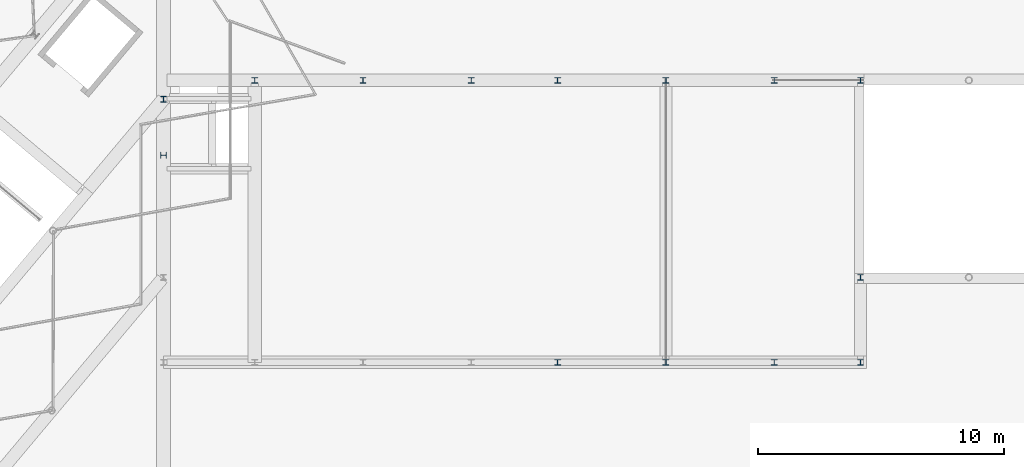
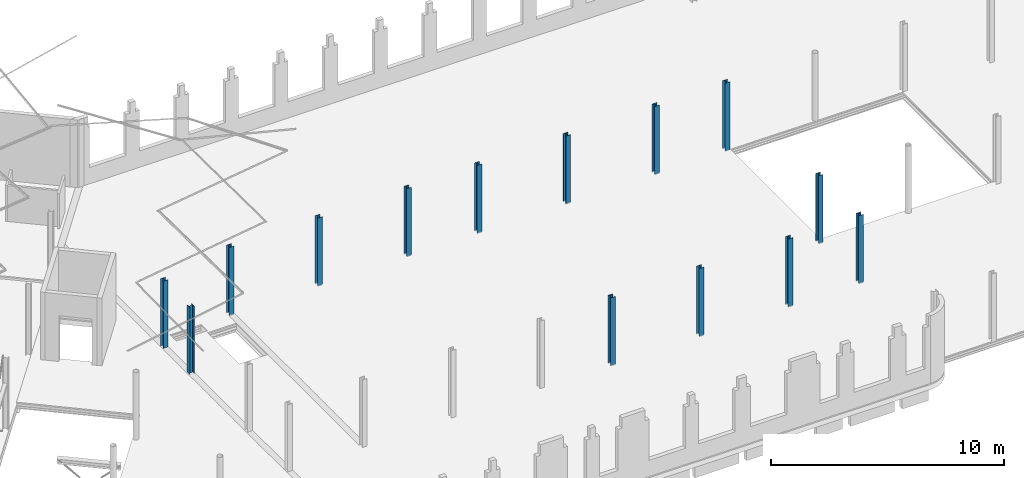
# One storey, part 5 of 25: 14 columns.
"""IFC2X3 building model written with IfcOpenShell, lengths in millimetres."""

from ifc_helpers import new_model, entity, si_unit, converted_unit, derived_unit, direction, frame, frame_2d, origin, origin_2d_with_axis, place, context, subcontext, project, spatial, i_section, extrude, source, transform, mapped, material, type_object, type_shapes, element, save


model = new_model("IFC2X3")

# Units and contexts
model_context = context("Model", 3, precision=0.01, world=origin(), true_north=direction((6.123031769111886e-17, 1.0)))
body_context = subcontext(model_context, "Body", "Model", "MODEL_VIEW")
ifc_project = project(units=[si_unit("LENGTHUNIT", "METRE", prefix="MILLI"), si_unit("AREAUNIT", "SQUARE_METRE"), si_unit("VOLUMEUNIT", "CUBIC_METRE"), derived_unit("MASSDENSITYUNIT", [(si_unit("MASSUNIT", "GRAM", prefix="KILO"), 1), (si_unit("LENGTHUNIT", "METRE"), -3)]), si_unit("MASSUNIT", "GRAM", prefix="KILO"), converted_unit("PLANEANGLEUNIT", "DEGREE", entity("IfcPlaneAngleMeasure", 0.017453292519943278), si_unit("PLANEANGLEUNIT", "RADIAN"), dimensions=[0, 0, 0, 0, 0, 0, 0])], contexts=[model_context])

# Site, building, storey
site_placement = place(None, origin())
site = spatial("IfcSite", under=ifc_project, at=site_placement, Name="Default", CompositionType="ELEMENT")
building_placement = place(site_placement, origin())
building = spatial("IfcBuilding", under=site, at=building_placement, Name="AT constructie", CompositionType="ELEMENT")
storey_placement = place(building_placement, frame((0.0, 0.0, 3864.0)))
storey = spatial("IfcBuildingStorey", under=building, at=storey_placement, Name="01 eerste verdieping", CompositionType="ELEMENT", Elevation=3864.0)

# Columns
ifc_material = material(Name="h2_staal_S355")
column_type_1 = type_object("IfcColumnType", Name="kolom_gen_HEA240", PredefinedType="COLUMN", material=ifc_material)
shared_shape_1 = source(origin(), body_context, "Body", "SweptSolid", [
    extrude(i_section(OverallWidth=239.9999999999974, OverallDepth=229.9999999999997, WebThickness=7.500000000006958, FlangeThickness=12.000000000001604, FilletRadius=21.0, at=frame_2d((8.661515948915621e-12, -4.334310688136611e-12), x_axis=(1.0, 0.0))), frame((69446.87463111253, 31271.04350852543, 3764.0)), (0.0, 0.0, 1.0), 3578.999999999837),
])
type_shapes(column_type_1, [shared_shape_1])
column_1_placement = place(storey_placement, frame((0.0, 0.0, -3864.0)))
element("IfcColumn", 1, at=column_1_placement, inside=storey, type_object=column_type_1, material=ifc_material, Name="NLRS_28_SC_TLB_kolom HEA_gen_AT:kolom_gen_HEA240", ObjectType="NLRS_28_SC_TLB_kolom HEA_gen_AT:kolom_gen_HEA240", context=body_context, shape_type="MappedRepresentation", body=[
    mapped(shared_shape_1, transform((0.0, 0.0, 0.0), scale=1.0)),
])
column_type_2 = type_object("IfcColumnType", Name="kolom_gen_HEA240", PredefinedType="COLUMN", material=ifc_material)
shared_shape_2 = source(origin(), body_context, "Body", "SweptSolid", [
    extrude(i_section(OverallWidth=239.9999999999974, OverallDepth=229.9999999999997, WebThickness=7.500000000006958, FlangeThickness=12.000000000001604, FilletRadius=21.0, at=frame_2d((0.0, 4.334310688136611e-12), x_axis=(1.0, 0.0))), frame((65946.87463111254, 31271.043508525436, 3764.0)), (0.0, 0.0, 1.0), 3578.999999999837),
])
type_shapes(column_type_2, [shared_shape_2])
column_2_placement = place(storey_placement, frame((0.0, 0.0, -3864.0)))
element("IfcColumn", 2, at=column_2_placement, inside=storey, type_object=column_type_2, material=ifc_material, Name="NLRS_28_SC_TLB_kolom HEA_gen_AT:kolom_gen_HEA240", ObjectType="NLRS_28_SC_TLB_kolom HEA_gen_AT:kolom_gen_HEA240", context=body_context, shape_type="MappedRepresentation", body=[
    mapped(shared_shape_2, transform((0.0, 0.0, 0.0), scale=1.0)),
])
column_type_3 = type_object("IfcColumnType", Name="kolom_gen_HEA240", PredefinedType="COLUMN", material=ifc_material)
shared_shape_3 = source(origin(), body_context, "Body", "SweptSolid", [
    extrude(i_section(OverallWidth=239.9999999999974, OverallDepth=229.9999999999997, WebThickness=7.500000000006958, FlangeThickness=12.000000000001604, FilletRadius=21.0, at=frame_2d((-1.7323031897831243e-11, 0.0), x_axis=(1.0, 0.0))), frame((61546.87463111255, 31271.04350852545, 3764.0)), (0.0, 0.0, 1.0), 3578.999999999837),
])
type_shapes(column_type_3, [shared_shape_3])
column_3_placement = place(storey_placement, frame((0.0, 0.0, -3864.0)))
element("IfcColumn", 3, at=column_3_placement, inside=storey, type_object=column_type_3, material=ifc_material, Name="NLRS_28_SC_TLB_kolom HEA_gen_AT:kolom_gen_HEA240", ObjectType="NLRS_28_SC_TLB_kolom HEA_gen_AT:kolom_gen_HEA240", context=body_context, shape_type="MappedRepresentation", body=[
    mapped(shared_shape_3, transform((0.0, 0.0, 0.0), scale=1.0)),
])
column_type_4 = type_object("IfcColumnType", Name="kolom_gen_HEA240", PredefinedType="COLUMN", material=ifc_material)
shared_shape_4 = source(origin(), body_context, "Body", "SweptSolid", [
    extrude(i_section(OverallWidth=239.9999999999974, OverallDepth=229.9999999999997, WebThickness=7.500000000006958, FlangeThickness=12.000000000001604, FilletRadius=21.0, at=frame_2d((8.661515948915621e-12, 4.334310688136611e-12), x_axis=(1.0, 0.0))), frame((57146.874631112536, 31271.04350852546, 3764.0)), (0.0, 0.0, 1.0), 3578.999999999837),
])
type_shapes(column_type_4, [shared_shape_4])
column_4_placement = place(storey_placement, frame((0.0, 0.0, -3864.0)))
element("IfcColumn", 4, at=column_4_placement, inside=storey, type_object=column_type_4, material=ifc_material, Name="NLRS_28_SC_TLB_kolom HEA_gen_AT:kolom_gen_HEA240", ObjectType="NLRS_28_SC_TLB_kolom HEA_gen_AT:kolom_gen_HEA240", context=body_context, shape_type="MappedRepresentation", body=[
    mapped(shared_shape_4, transform((0.0, 0.0, 0.0), scale=1.0)),
])
column_type_5 = type_object("IfcColumnType", Name="kolom_gen_HEA240", PredefinedType="COLUMN", material=ifc_material)
shared_shape_5 = source(origin(), body_context, "Body", "SweptSolid", [
    extrude(i_section(OverallWidth=239.9999999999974, OverallDepth=229.9999999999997, WebThickness=7.500000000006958, FlangeThickness=12.000000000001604, FilletRadius=21.0, at=frame_2d((8.661515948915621e-12, -4.334310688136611e-12), x_axis=(1.0, 0.0))), frame((53646.87463111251, 31271.043508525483, 3764.0)), (0.0, 0.0, 1.0), 3578.999999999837),
])
type_shapes(column_type_5, [shared_shape_5])
column_5_placement = place(storey_placement, frame((0.0, 0.0, -3864.0)))
element("IfcColumn", 5, at=column_5_placement, inside=storey, type_object=column_type_5, material=ifc_material, Name="NLRS_28_SC_TLB_kolom HEA_gen_AT:kolom_gen_HEA240", ObjectType="NLRS_28_SC_TLB_kolom HEA_gen_AT:kolom_gen_HEA240", context=body_context, shape_type="MappedRepresentation", body=[
    mapped(shared_shape_5, transform((0.0, 0.0, 0.0), scale=1.0)),
])
column_type_6 = type_object("IfcColumnType", Name="kolom_gen_HEA240", PredefinedType="COLUMN", material=ifc_material)
shared_shape_6 = source(origin(), body_context, "Body", "SweptSolid", [
    extrude(i_section(OverallWidth=239.9999999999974, OverallDepth=229.9999999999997, WebThickness=7.500000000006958, FlangeThickness=12.000000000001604, FilletRadius=21.0, at=frame_2d((0.0, -4.334310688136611e-12), x_axis=(1.0, 0.0))), frame((49246.87463111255, 31271.043508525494, 3764.0)), (0.0, 0.0, 1.0), 3578.999999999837),
])
type_shapes(column_type_6, [shared_shape_6])
column_6_placement = place(storey_placement, frame((0.0, 0.0, -3864.0)))
element("IfcColumn", 6, at=column_6_placement, inside=storey, type_object=column_type_6, material=ifc_material, Name="NLRS_28_SC_TLB_kolom HEA_gen_AT:kolom_gen_HEA240", ObjectType="NLRS_28_SC_TLB_kolom HEA_gen_AT:kolom_gen_HEA240", context=body_context, shape_type="MappedRepresentation", body=[
    mapped(shared_shape_6, transform((0.0, 0.0, 0.0), scale=1.0)),
])
column_type_7 = type_object("IfcColumnType", Name="kolom_gen_HEA240", PredefinedType="COLUMN", material=ifc_material)
shared_shape_7 = source(origin(), body_context, "Body", "SweptSolid", [
    extrude(i_section(OverallWidth=239.9999999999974, OverallDepth=229.9999999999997, WebThickness=7.500000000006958, FlangeThickness=12.000000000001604, FilletRadius=21.0, at=frame_2d((-8.661515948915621e-12, 0.0), x_axis=(1.0, 0.0))), frame((44846.87463111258, 31271.043508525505, 3764.0)), (0.0, 0.0, 1.0), 3578.999999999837),
])
type_shapes(column_type_7, [shared_shape_7])
column_7_placement = place(storey_placement, frame((0.0, 0.0, -3864.0)))
element("IfcColumn", 7, at=column_7_placement, inside=storey, type_object=column_type_7, material=ifc_material, Name="NLRS_28_SC_TLB_kolom HEA_gen_AT:kolom_gen_HEA240", ObjectType="NLRS_28_SC_TLB_kolom HEA_gen_AT:kolom_gen_HEA240", context=body_context, shape_type="MappedRepresentation", body=[
    mapped(shared_shape_7, transform((0.0, 0.0, 0.0), scale=1.0)),
])
column_type_8 = type_object("IfcColumnType", Name="kolom_gen_HEA240", PredefinedType="COLUMN", material=ifc_material)
shared_shape_8 = source(origin(), body_context, "Body", "SweptSolid", [
    extrude(i_section(OverallWidth=239.9999999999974, OverallDepth=229.9999999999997, WebThickness=7.500000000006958, FlangeThickness=12.000000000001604, FilletRadius=21.0, at=origin_2d_with_axis()), frame((69446.87463111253, 23271.043508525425, 3764.0)), (0.0, 0.0, 1.0), 3578.999999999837),
])
type_shapes(column_type_8, [shared_shape_8])
column_8_placement = place(storey_placement, frame((0.0, 0.0, -3864.0)))
element("IfcColumn", 8, at=column_8_placement, inside=storey, type_object=column_type_8, material=ifc_material, Name="NLRS_28_SC_TLB_kolom HEA_gen_AT:kolom_gen_HEA240", ObjectType="NLRS_28_SC_TLB_kolom HEA_gen_AT:kolom_gen_HEA240", context=body_context, shape_type="MappedRepresentation", body=[
    mapped(shared_shape_8, transform((0.0, 0.0, 0.0), scale=1.0)),
])
column_type_9 = type_object("IfcColumnType", Name="kolom_gen_HEA240", PredefinedType="COLUMN", material=ifc_material)
shared_shape_9 = source(origin(), body_context, "Body", "SweptSolid", [
    extrude(i_section(OverallWidth=239.9999999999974, OverallDepth=229.9999999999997, WebThickness=7.500000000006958, FlangeThickness=12.000000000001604, FilletRadius=21.0, at=frame_2d((-8.661515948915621e-12, 0.0), x_axis=(1.0, 0.0))), frame((65946.87463111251, 19821.04350852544, 3764.0)), (0.0, 0.0, 1.0), 3578.999999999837),
])
type_shapes(column_type_9, [shared_shape_9])
column_9_placement = place(storey_placement, frame((0.0, 0.0, -3864.0)))
element("IfcColumn", 9, at=column_9_placement, inside=storey, type_object=column_type_9, material=ifc_material, Name="NLRS_28_SC_TLB_kolom HEA_gen_AT:kolom_gen_HEA240", ObjectType="NLRS_28_SC_TLB_kolom HEA_gen_AT:kolom_gen_HEA240", context=body_context, shape_type="MappedRepresentation", body=[
    mapped(shared_shape_9, transform((0.0, 0.0, 0.0), scale=1.0)),
])
column_type_10 = type_object("IfcColumnType", Name="kolom_gen_HEA240", PredefinedType="COLUMN", material=ifc_material)
shared_shape_10 = source(origin(), body_context, "Body", "SweptSolid", [
    extrude(i_section(OverallWidth=239.9999999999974, OverallDepth=229.9999999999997, WebThickness=7.500000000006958, FlangeThickness=12.000000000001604, FilletRadius=21.0, at=frame_2d((0.0, -4.334310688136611e-12), x_axis=(1.0, 0.0))), frame((61546.87463111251, 19821.043508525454, 3764.0)), (0.0, 0.0, 1.0), 3578.999999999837),
])
type_shapes(column_type_10, [shared_shape_10])
column_10_placement = place(storey_placement, frame((0.0, 0.0, -3864.0)))
element("IfcColumn", 10, at=column_10_placement, inside=storey, type_object=column_type_10, material=ifc_material, Name="NLRS_28_SC_TLB_kolom HEA_gen_AT:kolom_gen_HEA240", ObjectType="NLRS_28_SC_TLB_kolom HEA_gen_AT:kolom_gen_HEA240", context=body_context, shape_type="MappedRepresentation", body=[
    mapped(shared_shape_10, transform((0.0, 0.0, 0.0), scale=1.0)),
])
column_type_11 = type_object("IfcColumnType", Name="kolom_gen_HEA240", PredefinedType="COLUMN", material=ifc_material)
shared_shape_11 = source(origin(), body_context, "Body", "SweptSolid", [
    extrude(i_section(OverallWidth=239.9999999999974, OverallDepth=229.9999999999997, WebThickness=7.500000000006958, FlangeThickness=12.000000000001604, FilletRadius=21.0, at=frame_2d((8.661515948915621e-12, 0.0), x_axis=(1.0, 0.0))), frame((57146.874631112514, 19821.043508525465, 3764.0)), (0.0, 0.0, 1.0), 3578.999999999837),
])
type_shapes(column_type_11, [shared_shape_11])
column_11_placement = place(storey_placement, frame((0.0, 0.0, -3864.0)))
element("IfcColumn", 11, at=column_11_placement, inside=storey, type_object=column_type_11, material=ifc_material, Name="NLRS_28_SC_TLB_kolom HEA_gen_AT:kolom_gen_HEA240", ObjectType="NLRS_28_SC_TLB_kolom HEA_gen_AT:kolom_gen_HEA240", context=body_context, shape_type="MappedRepresentation", body=[
    mapped(shared_shape_11, transform((0.0, 0.0, 0.0), scale=1.0)),
])
column_type_12 = type_object("IfcColumnType", Name="kolom_gen_HEA240", PredefinedType="COLUMN", material=ifc_material)
shared_shape_12 = source(origin(), body_context, "Body", "SweptSolid", [
    extrude(i_section(OverallWidth=239.9999999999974, OverallDepth=229.9999999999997, WebThickness=7.500000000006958, FlangeThickness=12.000000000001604, FilletRadius=21.0, at=frame_2d((0.0, -4.334310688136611e-12), x_axis=(1.0, 0.0))), frame((69446.87463111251, 19821.04350852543, 3764.0)), (0.0, 0.0, 1.0), 3578.999999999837),
])
type_shapes(column_type_12, [shared_shape_12])
column_12_placement = place(storey_placement, frame((0.0, 0.0, -3864.0)))
element("IfcColumn", 12, at=column_12_placement, inside=storey, type_object=column_type_12, material=ifc_material, Name="NLRS_28_SC_TLB_kolom HEA_gen_AT:kolom_gen_HEA240", ObjectType="NLRS_28_SC_TLB_kolom HEA_gen_AT:kolom_gen_HEA240", context=body_context, shape_type="MappedRepresentation", body=[
    mapped(shared_shape_12, transform((0.0, 0.0, 0.0), scale=1.0)),
])
column_type_13 = type_object("IfcColumnType", Name="kolom_gen_HEA240", PredefinedType="COLUMN", material=ifc_material)
shared_shape_13 = source(origin(), body_context, "Body", "SweptSolid", [
    extrude(i_section(OverallWidth=239.9999999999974, OverallDepth=229.9999999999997, WebThickness=7.500000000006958, FlangeThickness=12.000000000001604, FilletRadius=21.0, at=frame_2d((1.7323031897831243e-11, -4.334310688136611e-12), x_axis=(1.0, 0.0))), frame((41146.874631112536, 30506.043508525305, 3824.0)), (0.0, 0.0, 1.0), 3518.9999999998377),
])
type_shapes(column_type_13, [shared_shape_13])
column_13_placement = place(storey_placement, frame((0.0, 0.0, -3864.0)))
element("IfcColumn", 13, at=column_13_placement, inside=storey, type_object=column_type_13, material=ifc_material, Name="NLRS_28_SC_TLB_kolom HEA_gen_AT:kolom_gen_HEA240", ObjectType="NLRS_28_SC_TLB_kolom HEA_gen_AT:kolom_gen_HEA240", context=body_context, shape_type="MappedRepresentation", body=[
    mapped(shared_shape_13, transform((0.0, 0.0, 0.0), scale=1.0)),
])
column_type_14 = type_object("IfcColumnType", Name="kolom_gen_HEA240", PredefinedType="COLUMN", material=ifc_material)
shared_shape_14 = source(origin(), body_context, "Body", "SweptSolid", [
    extrude(i_section(OverallWidth=240.00000000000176, OverallDepth=229.9999999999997, WebThickness=7.500000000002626, FlangeThickness=12.000000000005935, FilletRadius=21.0, at=origin_2d_with_axis()), frame((41146.874631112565, 28231.043508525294, 3824.0), z_axis=(0.0, 0.0, 1.0), x_axis=(0.0, -1.0, 0.0)), (0.0, 0.0, 1.0), 3518.9999999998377),
])
type_shapes(column_type_14, [shared_shape_14])
column_14_placement = place(storey_placement, frame((0.0, 0.0, -3864.0)))
element("IfcColumn", 14, at=column_14_placement, inside=storey, type_object=column_type_14, material=ifc_material, Name="NLRS_28_SC_TLB_kolom HEA_gen_AT:kolom_gen_HEA240", ObjectType="NLRS_28_SC_TLB_kolom HEA_gen_AT:kolom_gen_HEA240", context=body_context, shape_type="MappedRepresentation", body=[
    mapped(shared_shape_14, transform((0.0, 0.0, 0.0), scale=1.0)),
])

save(model, "model.ifc")
